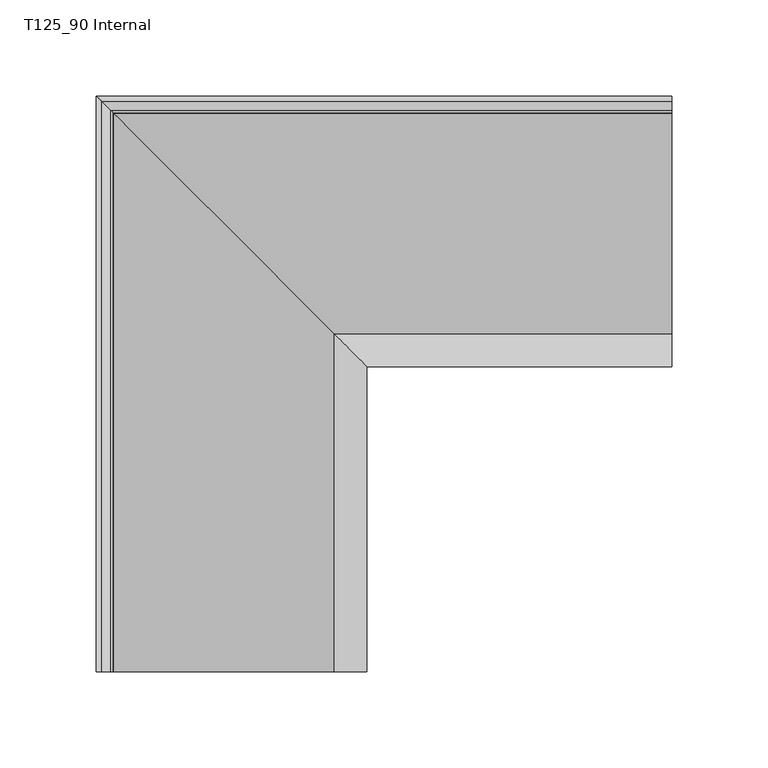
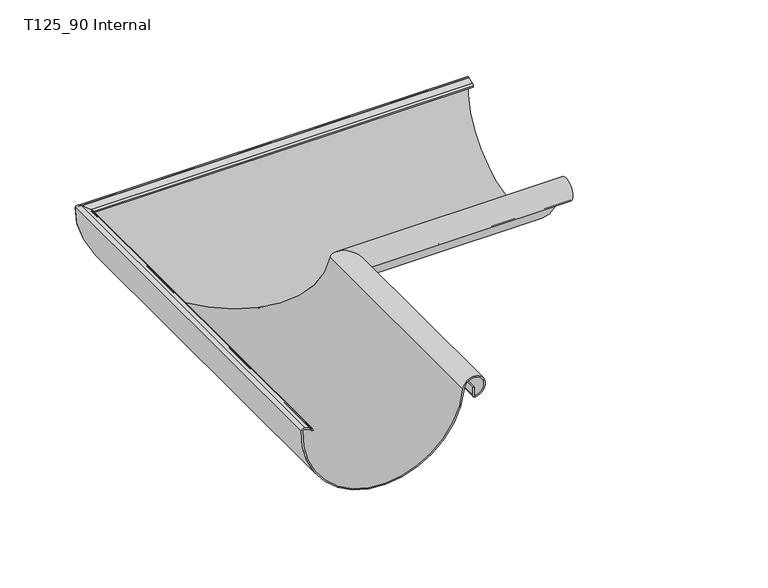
"""IFC4 building model written with IfcOpenShell, lengths in millimetres: proxy geometry, GROVIK_Gutter_Corner : T125_90 Internal."""

from ifc_helpers import new_model, si_unit, frame, origin, place, context, project, spatial, polyline, circle_curve, ellipse_curve, source, transform, mapped, element, save
from ifc_brep_helpers import plane_surface, cylinder_surface, revolved_surface, advanced_brep


def t125_90_internal_6e265628(model_context):
    return source(origin(), model_context, "Body", "AdvancedBrep", [
        advanced_brep(
        [(9.1782044, -300.0, -4.0843749), (8.8850033, -300.0, -3.1253573), (7.656434, -300.0, -1.8307155), (2.9579709, -300.0, -0.1206148), (0.2739306, -300.0, -2.0), (124.9615409, -300.0, -11.2897939), (133.6750695, -300.0, -19.5609673), (132.5235543, -300.0, -18.572593), (132.5235543, -300.0, -12.0487098), (131.5235543, -300.0, -12.0487098), (131.5235543, -300.0, -18.572593), (133.8266643, -300.0, -20.54941), (123.9665472, -300.0, -11.1898563), (1.2741356, -300.0, -2.0202437), (2.6159508, -300.0, -1.0603074), (7.3144139, -300.0, -2.7704081), (7.9286985, -300.0, -3.417729), (8.2218996, -300.0, -4.3767466), (8.2218996, -8.1218996, -4.3767466), (9.1782044, -9.0782044, -4.0843749), (7.9286985, -7.8286985, -3.417729), (7.3144139, -7.2144139, -2.7704081), (2.6159508, -2.5159508, -1.0603074), (1.2741356, -1.1741356, -2.0202437), (123.9665472, -123.8665472, -11.1898563), (133.8266643, -133.7266643, -20.54941), (131.5235543, -131.4235543, -18.572593), (131.5235543, -131.4235543, -12.0487098), (132.5235543, -132.4235543, -12.0487098), (132.5235543, -132.4235543, -18.572593), (133.6750695, -133.5750695, -19.5609673), (124.9615409, -124.8615409, -11.2897939), (0.2739306, -0.1739306, -2.0), (2.9579709, -2.8579709, -0.1206148), (7.656434, -7.556434, -1.8307155), (8.8850033, -8.7850033, -3.1253573)],
        [
            (0, 1),
            (1, 2, circle_curve(frame((6.9723938, -300.0, -3.7101007), z_axis=(0.0, -1.0, 0.0), x_axis=(1.0, 0.0, 0.0)), 2.0)),
            (2, 3),
            (3, 4, circle_curve(frame((2.2739306, -300.0, -2.0), z_axis=(0.0, -1.0, 0.0), x_axis=(1.0, 0.0, 0.0)), 2.0)),
            (4, 5, circle_curve(frame((62.7373106, -300.0, -5.0399641), z_axis=(0.0, -1.0, 0.0), x_axis=(1.0, 0.0, 0.0)), 62.5373106)),
            (5, 6, circle_curve(frame((132.5230203, -300.0, -12.0492723), z_axis=(0.0, 1.0, 0.0), x_axis=(1.0, 0.0, 0.0)), 7.5995249)),
            (6, 7, circle_curve(frame((133.5234851, -300.0, -18.572593), z_axis=(0.0, 1.0, 0.0), x_axis=(1.0, 0.0, 0.0)), 0.9999308)),
            (7, 8),
            (8, 9),
            (9, 10),
            (10, 11, circle_curve(frame((133.5234851, -300.0, -18.572593), z_axis=(0.0, -1.0, 0.0), x_axis=(1.0, 0.0, 0.0)), 1.9999308)),
            (11, 12, circle_curve(frame((132.5230203, -300.0, -12.0492723), z_axis=(0.0, -1.0, 0.0), x_axis=(1.0, 0.0, 0.0)), 8.5995249)),
            (12, 13, circle_curve(frame((62.7373106, -300.0, -5.0399641), z_axis=(0.0, 1.0, 0.0), x_axis=(1.0, 0.0, 0.0)), 61.5373106)),
            (13, 14, circle_curve(frame((2.2739306, -300.0, -2.0), z_axis=(0.0, 1.0, 0.0), x_axis=(1.0, 0.0, 0.0)), 1.0)),
            (14, 15),
            (15, 16, circle_curve(frame((6.9723938, -300.0, -3.7101007), z_axis=(0.0, 1.0, 0.0), x_axis=(1.0, 0.0, 0.0)), 1.0)),
            (16, 17),
            (17, 0),
            (17, 18),
            (18, 19),
            (19, 0),
            (16, 20),
            (20, 18),
            (15, 21),
            (21, 20, ellipse_curve(frame((6.9723938, -6.8723938, -3.7101007), z_axis=(0.707106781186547, 0.707106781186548, 0.0), x_axis=(-0.707106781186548, 0.7071067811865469, 0.0)), 1.4142136, 1.0)),
            (14, 22),
            (22, 21),
            (13, 23),
            (23, 22, ellipse_curve(frame((2.2739306, -2.1739306, -2.0), z_axis=(0.707106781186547, 0.707106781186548, 0.0), x_axis=(-0.707106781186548, 0.7071067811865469, 0.0)), 1.4142136, 1.0)),
            (12, 24),
            (24, 23, ellipse_curve(frame((62.7373106, -62.6373106, -5.0399641), z_axis=(0.707106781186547, 0.707106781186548, 0.0), x_axis=(-0.707106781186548, 0.7071067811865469, 0.0)), 87.0268992, 61.5373106)),
            (11, 25),
            (25, 24, ellipse_curve(frame((132.5230203, -132.4230203, -12.0492723), z_axis=(-0.707106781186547, -0.707106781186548, 0.0), x_axis=(0.707106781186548, -0.7071067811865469, 0.0)), 12.1615647, 8.5995249)),
            (10, 26),
            (26, 25, ellipse_curve(frame((133.5234851, -133.4234851, -18.572593), z_axis=(-0.707106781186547, -0.707106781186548, 0.0), x_axis=(0.707106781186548, -0.7071067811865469, 0.0)), 2.8283292, 1.9999308)),
            (9, 27),
            (27, 26),
            (8, 28),
            (28, 27),
            (7, 29),
            (29, 28),
            (6, 30),
            (30, 29, ellipse_curve(frame((133.5234851, -133.4234851, -18.572593), z_axis=(0.707106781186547, 0.707106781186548, 0.0), x_axis=(-0.707106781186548, 0.7071067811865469, 0.0)), 1.4141156, 0.9999308)),
            (5, 31),
            (31, 30, ellipse_curve(frame((132.5230203, -132.4230203, -12.0492723), z_axis=(0.707106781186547, 0.707106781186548, 0.0), x_axis=(-0.707106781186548, 0.7071067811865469, 0.0)), 10.7473511, 7.5995249)),
            (4, 32),
            (32, 31, ellipse_curve(frame((62.7373106, -62.6373106, -5.0399641), z_axis=(-0.707106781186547, -0.707106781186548, 0.0), x_axis=(0.707106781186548, -0.7071067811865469, 0.0)), 88.4411128, 62.5373106)),
            (3, 33),
            (33, 32, ellipse_curve(frame((2.2739306, -2.1739306, -2.0), z_axis=(-0.707106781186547, -0.707106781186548, 0.0), x_axis=(0.707106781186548, -0.7071067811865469, 0.0)), 2.8284271, 2.0)),
            (2, 34),
            (34, 33),
            (1, 35),
            (35, 34, ellipse_curve(frame((6.9723938, -6.8723938, -3.7101007), z_axis=(-0.707106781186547, -0.707106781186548, 0.0), x_axis=(0.707106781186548, -0.7071067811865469, 0.0)), 2.8284271, 2.0)),
            (19, 35),
        ],
        [
            plane_surface(frame((0.2, -300.0, 0.0), z_axis=(0.0, -1.0, 0.0), x_axis=(0.0, 0.0, 1.0))),
            plane_surface(frame((9.1782044, -300.0, -4.0843749), z_axis=(0.2923717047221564, 0.0, -0.956304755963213), x_axis=(0.0, 1.0, 0.0))),
            plane_surface(frame((8.2218996, -300.0, -4.3767466), z_axis=(-0.9563047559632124, 0.0, -0.2923717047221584), x_axis=(0.0, 1.0, 0.0))),
            revolved_surface(polyline([(7.9723938, -5.872393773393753, -3.7101007), (7.9723938, -300.0, -3.7101007)]), (6.9723938, -300.0, -3.7101007), (0.0, 1.0, 0.0)),
            plane_surface(frame((7.3144139, -300.0, -2.7704081), z_axis=(-0.342020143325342, 0.0, -0.9396926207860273), x_axis=(0.0, 1.0, 0.0))),
            revolved_surface(polyline([(3.2739306, -1.1739305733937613, -2.0), (3.2739306, -300.0, -2.0)]), (2.2739306, -300.0, -2.0), (0.0, 1.0, 0.0)),
            revolved_surface(polyline([(124.2746212, -1.1000000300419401, -5.0399641), (124.2746212, -300.0, -5.0399641)]), (62.7373106, -300.0, -5.0399641), (0.0, 1.0, 0.0)),
            cylinder_surface(frame((132.5230203, -300.0, -12.0492723), z_axis=(0.0, -1.0, 0.0), x_axis=(1.0, 0.0, 0.0)), 8.5995249),
            cylinder_surface(frame((133.5234851, -300.0, -18.572593), z_axis=(0.0, -1.0, 0.0), x_axis=(1.0, 0.0, 0.0)), 1.9999308),
            plane_surface(frame((131.5235543, -300.0, -18.572593), z_axis=(-1.0, 0.0, 0.0), x_axis=(0.0, 1.0, 0.0))),
            plane_surface(frame((131.5235543, -300.0, -12.0487098), z_axis=(0.0, 0.0, 1.0), x_axis=(0.0, 1.0, 0.0))),
            plane_surface(frame((132.5235543, -300.0, -12.0487098), z_axis=(1.0, 0.0, 0.0), x_axis=(0.0, 1.0, 0.0))),
            revolved_surface(polyline([(134.52341589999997, -132.4235543, -18.572593), (134.52341589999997, -300.0, -18.572593)]), (133.5234851, -300.0, -18.572593), (0.0, 1.0, 0.0)),
            revolved_surface(polyline([(140.12254520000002, -124.82349545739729, -12.0492723), (140.12254520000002, -300.0, -12.0492723)]), (132.5230203, -300.0, -12.0492723), (0.0, 1.0, 0.0)),
            cylinder_surface(frame((62.7373106, -300.0, -5.0399641), z_axis=(0.0, -1.0, 0.0), x_axis=(1.0, 0.0, 0.0)), 62.5373106),
            cylinder_surface(frame((2.2739306, -300.0, -2.0), z_axis=(0.0, -1.0, 0.0), x_axis=(1.0, 0.0, 0.0)), 2.0),
            plane_surface(frame((2.9579709, -300.0, -0.1206148), z_axis=(0.3420201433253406, 0.0, 0.9396926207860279), x_axis=(0.0, 1.0, 0.0))),
            cylinder_surface(frame((6.9723938, -300.0, -3.7101007), z_axis=(0.0, -1.0, 0.0), x_axis=(1.0, 0.0, 0.0)), 2.0),
            plane_surface(frame((8.8850033, -300.0, -3.1253573), z_axis=(0.9563047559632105, 0.0, 0.29237170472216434), x_axis=(0.0, 1.0, 0.0))),
            plane_surface(frame((141.2, -141.1, 250.0), z_axis=(0.707106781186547, 0.707106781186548, 0.0), x_axis=(0.0, 0.0, -1.0))),
        ],
        [
            (0, [[1, 2, 3, 4, 5, 6, 7, 8, 9, 10, 11, 12, 13, 14, 15, 16, 17, 18]]),
            (1, [[19, 20, 21, -18]]),
            (2, [[22, 23, -19, -17]]),
            (3, [[24, 25, -22, -16]]),
            (4, [[26, 27, -24, -15]]),
            (5, [[28, 29, -26, -14]]),
            (6, [[30, 31, -28, -13]]),
            (7, [[32, 33, -30, -12]]),
            (8, [[34, 35, -32, -11]]),
            (9, [[36, 37, -34, -10]]),
            (10, [[38, 39, -36, -9]]),
            (11, [[40, 41, -38, -8]]),
            (12, [[42, 43, -40, -7]]),
            (13, [[44, 45, -42, -6]]),
            (14, [[46, 47, -44, -5]]),
            (15, [[48, 49, -46, -4]]),
            (16, [[50, 51, -48, -3]]),
            (17, [[52, 53, -50, -2]]),
            (18, [[-21, 54, -52, -1]]),
            (19, [[-23, -25, -27, -29, -31, -33, -35, -37, -39, -41, -43, -45, -47, -49, -51, -53, -54, -20]]),
        ],
    ),
        advanced_brep(
        [(300.0, -9.1782044, -4.0843749), (300.0, -8.2218996, -4.3767466), (300.0, -7.9286985, -3.417729), (300.0, -7.3144139, -2.7704081), (300.0, -2.6159508, -1.0603074), (300.0, -1.2741356, -2.0202437), (300.0, -123.9665472, -11.1898563), (300.0, -133.8266643, -20.54941), (300.0, -131.5235543, -18.572593), (300.0, -131.5235543, -12.0487098), (300.0, -132.5235543, -12.0487098), (300.0, -132.5235543, -18.572593), (300.0, -133.6750695, -19.5609673), (300.0, -124.9615409, -11.2897939), (300.0, -0.2739306, -2.0), (300.0, -2.9579709, -0.1206148), (300.0, -7.656434, -1.8307155), (300.0, -8.8850033, -3.1253573), (9.0782044, -9.1782044, -4.0843749), (8.1218996, -8.2218996, -4.3767466), (7.8286985, -7.9286985, -3.417729), (7.2144139, -7.3144139, -2.7704081), (2.5159508, -2.6159508, -1.0603074), (1.1741356, -1.2741356, -2.0202437), (123.8665472, -123.9665472, -11.1898563), (133.7266643, -133.8266643, -20.54941), (131.4235543, -131.5235543, -18.572593), (131.4235543, -131.5235543, -12.0487098), (132.4235543, -132.5235543, -12.0487098), (132.4235543, -132.5235543, -18.572593), (133.5750695, -133.6750695, -19.5609673), (124.8615409, -124.9615409, -11.2897939), (0.1739306, -0.2739306, -2.0), (2.8579709, -2.9579709, -0.1206148), (7.556434, -7.656434, -1.8307155), (8.7850033, -8.8850033, -3.1253573)],
        [
            (0, 1),
            (1, 2),
            (2, 3, circle_curve(frame((300.0, -6.9723938, -3.7101007), z_axis=(-1.0, 0.0, 0.0), x_axis=(0.0, -1.0, 0.0)), 1.0)),
            (3, 4),
            (4, 5, circle_curve(frame((300.0, -2.2739306, -2.0), z_axis=(-1.0, 0.0, 0.0), x_axis=(0.0, -1.0, 0.0)), 1.0)),
            (5, 6, circle_curve(frame((300.0, -62.7373106, -5.0399641), z_axis=(-1.0, 0.0, 0.0), x_axis=(0.0, -1.0, 0.0)), 61.5373106)),
            (6, 7, circle_curve(frame((300.0, -132.5230203, -12.0492723), z_axis=(1.0, 0.0, 0.0), x_axis=(0.0, -1.0, 0.0)), 8.5995249)),
            (7, 8, circle_curve(frame((300.0, -133.5234851, -18.572593), z_axis=(1.0, 0.0, 0.0), x_axis=(0.0, -1.0, 0.0)), 1.9999308)),
            (8, 9),
            (9, 10),
            (10, 11),
            (11, 12, circle_curve(frame((300.0, -133.5234851, -18.572593), z_axis=(-1.0, 0.0, 0.0), x_axis=(0.0, -1.0, 0.0)), 0.9999308)),
            (12, 13, circle_curve(frame((300.0, -132.5230203, -12.0492723), z_axis=(-1.0, 0.0, 0.0), x_axis=(0.0, -1.0, 0.0)), 7.5995249)),
            (13, 14, circle_curve(frame((300.0, -62.7373106, -5.0399641), z_axis=(1.0, 0.0, 0.0), x_axis=(0.0, -1.0, 0.0)), 62.5373106)),
            (14, 15, circle_curve(frame((300.0, -2.2739306, -2.0), z_axis=(1.0, 0.0, 0.0), x_axis=(0.0, -1.0, 0.0)), 2.0)),
            (15, 16),
            (16, 17, circle_curve(frame((300.0, -6.9723938, -3.7101007), z_axis=(1.0, 0.0, 0.0), x_axis=(0.0, -1.0, 0.0)), 2.0)),
            (17, 0),
            (0, 18),
            (18, 19),
            (19, 1),
            (19, 20),
            (20, 2),
            (20, 21, ellipse_curve(frame((6.8723938, -6.9723938, -3.7101007), z_axis=(-0.7071067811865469, -0.7071067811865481, 0.0), x_axis=(-0.7071067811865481, 0.7071067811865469, 0.0)), 1.4142136, 1.0)),
            (21, 3),
            (21, 22),
            (22, 4),
            (22, 23, ellipse_curve(frame((2.1739306, -2.2739306, -2.0), z_axis=(-0.7071067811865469, -0.7071067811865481, 0.0), x_axis=(-0.7071067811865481, 0.7071067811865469, 0.0)), 1.4142136, 1.0)),
            (23, 5),
            (23, 24, ellipse_curve(frame((62.6373106, -62.7373106, -5.0399641), z_axis=(-0.7071067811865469, -0.7071067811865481, 0.0), x_axis=(-0.7071067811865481, 0.7071067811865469, 0.0)), 87.0268992, 61.5373106)),
            (24, 6),
            (24, 25, ellipse_curve(frame((132.4230203, -132.5230203, -12.0492723), z_axis=(0.7071067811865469, 0.7071067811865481, 0.0), x_axis=(0.7071067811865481, -0.7071067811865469, 0.0)), 12.1615647, 8.5995249)),
            (25, 7),
            (25, 26, ellipse_curve(frame((133.4234851, -133.5234851, -18.572593), z_axis=(0.7071067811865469, 0.7071067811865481, 0.0), x_axis=(0.7071067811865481, -0.7071067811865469, 0.0)), 2.8283292, 1.9999308)),
            (26, 8),
            (26, 27),
            (27, 9),
            (27, 28),
            (28, 10),
            (28, 29),
            (29, 11),
            (29, 30, ellipse_curve(frame((133.4234851, -133.5234851, -18.572593), z_axis=(-0.7071067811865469, -0.7071067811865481, 0.0), x_axis=(-0.7071067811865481, 0.7071067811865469, 0.0)), 1.4141156, 0.9999308)),
            (30, 12),
            (30, 31, ellipse_curve(frame((132.4230203, -132.5230203, -12.0492723), z_axis=(-0.7071067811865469, -0.7071067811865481, 0.0), x_axis=(-0.7071067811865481, 0.7071067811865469, 0.0)), 10.7473511, 7.5995249)),
            (31, 13),
            (31, 32, ellipse_curve(frame((62.6373106, -62.7373106, -5.0399641), z_axis=(0.7071067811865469, 0.7071067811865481, 0.0), x_axis=(0.7071067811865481, -0.7071067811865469, 0.0)), 88.4411128, 62.5373106)),
            (32, 14),
            (32, 33, ellipse_curve(frame((2.1739306, -2.2739306, -2.0), z_axis=(0.7071067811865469, 0.7071067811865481, 0.0), x_axis=(0.7071067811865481, -0.7071067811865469, 0.0)), 2.8284271, 2.0)),
            (33, 15),
            (33, 34),
            (34, 16),
            (34, 35, ellipse_curve(frame((6.8723938, -6.9723938, -3.7101007), z_axis=(0.7071067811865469, 0.7071067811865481, 0.0), x_axis=(0.7071067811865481, -0.7071067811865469, 0.0)), 2.8284271, 2.0)),
            (35, 17),
            (35, 18),
        ],
        [
            plane_surface(frame((300.0, -0.2, 0.0), z_axis=(1.0, 0.0, 0.0), x_axis=(0.0, 0.0, 1.0))),
            plane_surface(frame((300.0, -9.1782044, -4.0843749), z_axis=(0.0, -0.2923717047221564, -0.956304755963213), x_axis=(-1.0, 0.0, 0.0))),
            plane_surface(frame((300.0, -8.2218996, -4.3767466), z_axis=(0.0, 0.9563047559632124, -0.2923717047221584), x_axis=(-1.0, 0.0, 0.0))),
            revolved_surface(polyline([(5.872393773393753, -7.9723938, -3.7101007), (300.0, -7.9723938, -3.7101007)]), (300.0, -6.9723938, -3.7101007), (-1.0, 0.0, 0.0)),
            plane_surface(frame((300.0, -7.3144139, -2.7704081), z_axis=(0.0, 0.342020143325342, -0.9396926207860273), x_axis=(-1.0, 0.0, 0.0))),
            revolved_surface(polyline([(1.1739305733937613, -3.2739306, -2.0), (300.0, -3.2739306, -2.0)]), (300.0, -2.2739306, -2.0), (-1.0, 0.0, 0.0)),
            revolved_surface(polyline([(1.1000000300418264, -124.2746212, -5.0399641), (300.0, -124.2746212, -5.0399641)]), (300.0, -62.7373106, -5.0399641), (-1.0, 0.0, 0.0)),
            cylinder_surface(frame((300.0, -132.5230203, -12.0492723), z_axis=(1.0, 0.0, 0.0), x_axis=(0.0, -1.0, 0.0)), 8.5995249),
            cylinder_surface(frame((300.0, -133.5234851, -18.572593), z_axis=(1.0, 0.0, 0.0), x_axis=(0.0, -1.0, 0.0)), 1.9999308),
            plane_surface(frame((300.0, -131.5235543, -18.572593), z_axis=(0.0, 1.0, 0.0), x_axis=(-1.0, 0.0, 0.0))),
            plane_surface(frame((300.0, -131.5235543, -12.0487098), z_axis=(0.0, 0.0, 1.0), x_axis=(-1.0, 0.0, 0.0))),
            plane_surface(frame((300.0, -132.5235543, -12.0487098), z_axis=(0.0, -1.0, 0.0), x_axis=(-1.0, 0.0, 0.0))),
            revolved_surface(polyline([(132.4235543, -134.52341589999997, -18.572593), (300.0, -134.52341589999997, -18.572593)]), (300.0, -133.5234851, -18.572593), (-1.0, 0.0, 0.0)),
            revolved_surface(polyline([(124.82349545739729, -140.12254520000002, -12.0492723), (300.0, -140.12254520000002, -12.0492723)]), (300.0, -132.5230203, -12.0492723), (-1.0, 0.0, 0.0)),
            cylinder_surface(frame((300.0, -62.7373106, -5.0399641), z_axis=(1.0, 0.0, 0.0), x_axis=(0.0, -1.0, 0.0)), 62.5373106),
            cylinder_surface(frame((300.0, -2.2739306, -2.0), z_axis=(1.0, 0.0, 0.0), x_axis=(0.0, -1.0, 0.0)), 2.0),
            plane_surface(frame((300.0, -2.9579709, -0.1206148), z_axis=(0.0, -0.3420201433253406, 0.9396926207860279), x_axis=(-1.0, 0.0, 0.0))),
            cylinder_surface(frame((300.0, -6.9723938, -3.7101007), z_axis=(1.0, 0.0, 0.0), x_axis=(0.0, -1.0, 0.0)), 2.0),
            plane_surface(frame((300.0, -8.8850033, -3.1253573), z_axis=(0.0, -0.9563047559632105, 0.29237170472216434), x_axis=(-1.0, 0.0, 0.0))),
            plane_surface(frame((141.1, -141.2, 250.0), z_axis=(-0.7071067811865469, -0.7071067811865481, 0.0), x_axis=(0.0, 0.0, -1.0))),
        ],
        [
            (0, [[1, 2, 3, 4, 5, 6, 7, 8, 9, 10, 11, 12, 13, 14, 15, 16, 17, 18]]),
            (1, [[-1, 19, 20, 21]]),
            (2, [[-2, -21, 22, 23]]),
            (3, [[-3, -23, 24, 25]]),
            (4, [[-4, -25, 26, 27]]),
            (5, [[-5, -27, 28, 29]]),
            (6, [[-6, -29, 30, 31]]),
            (7, [[-7, -31, 32, 33]]),
            (8, [[-8, -33, 34, 35]]),
            (9, [[-9, -35, 36, 37]]),
            (10, [[-10, -37, 38, 39]]),
            (11, [[-11, -39, 40, 41]]),
            (12, [[-12, -41, 42, 43]]),
            (13, [[-13, -43, 44, 45]]),
            (14, [[-14, -45, 46, 47]]),
            (15, [[-15, -47, 48, 49]]),
            (16, [[-16, -49, 50, 51]]),
            (17, [[-17, -51, 52, 53]]),
            (18, [[-18, -53, 54, -19]]),
            (19, [[-20, -54, -52, -50, -48, -46, -44, -42, -40, -38, -36, -34, -32, -30, -28, -26, -24, -22]]),
        ],
    ),
    ])


if __name__ == "__main__":
    model = new_model("IFC4")
    model_context = context("Model", 3, world=origin())
    ifc_project = project(units=[si_unit("LENGTHUNIT", "METRE", prefix="MILLI")], contexts=[model_context])
    site = spatial("IfcSite", under=ifc_project)
    building = spatial("IfcBuilding", under=site)
    placement = place(None, origin())
    t125_90_internal_shape = t125_90_internal_6e265628(model_context)
    element("IfcBuildingElementProxy", 1, Name="GROVIK_Gutter_Corner : T125_90 Internal", ObjectType="GROVIK_Gutter_Corner : T125_90 Internal", at=placement, inside=building, context=model_context, shape_type="MappedRepresentation", body=[
        mapped(t125_90_internal_shape, transform((0.0, 0.0, 0.0), x_axis=(1.0, 0.0, 0.0), y_axis=(0.0, 1.0, 0.0), z_axis=(0.0, 0.0, 1.0))),
    ])
    save(model, "model.ifc")
